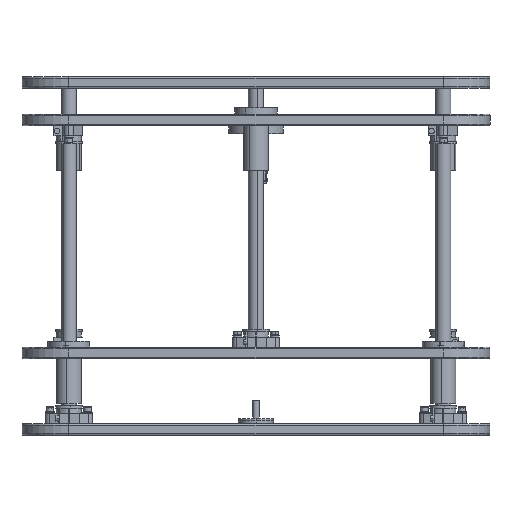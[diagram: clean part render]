
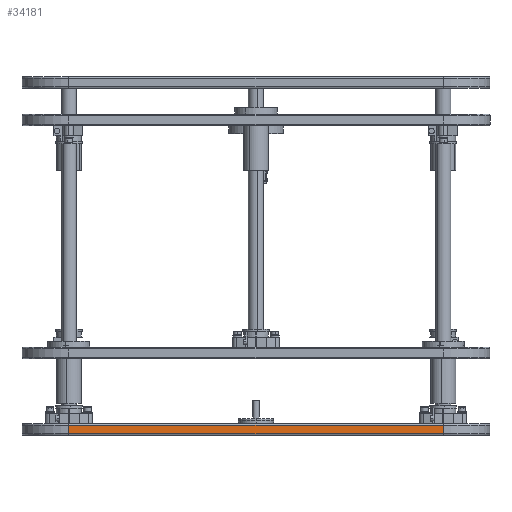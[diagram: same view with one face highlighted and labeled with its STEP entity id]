
A CAD part, front view. The second image highlights one B-rep face of the part: STEP entity #34181.
In plain terms, the highlighted planar face has unit normal (0, -1, 0).
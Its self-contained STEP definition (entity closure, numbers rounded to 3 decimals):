
#2458 = LINE ( 'NONE', #33400, #41344 ) ;
#3836 = ORIENTED_EDGE ( 'NONE', *, *, #9458, .T. ) ;
#5368 = EDGE_CURVE ( 'NONE', #16173, #49179, #9712, .T. ) ;
#6410 = PLANE ( 'NONE',  #7095 ) ;
#7095 = AXIS2_PLACEMENT_3D ( 'NONE', #37469, #45288, #22076 ) ;
#7569 = VECTOR ( 'NONE', #10902, 1000. ) ;
#9458 = EDGE_CURVE ( 'NONE', #41810, #42490, #29248, .T. ) ;
#9712 = LINE ( 'NONE', #47752, #38238 ) ;
#10728 = CARTESIAN_POINT ( 'NONE',  ( -300., -300., 6.5 ) ) ;
#10902 = DIRECTION ( 'NONE',  ( -1., 0., 0. ) ) ;
#12998 = DIRECTION ( 'NONE',  ( 0., 0., -1. ) ) ;
#14093 = DIRECTION ( 'NONE',  ( 1., 0., 0. ) ) ;
#16173 = VERTEX_POINT ( 'NONE', #26284 ) ;
#17956 = LINE ( 'NONE', #10728, #7569 ) ;
#18170 = ORIENTED_EDGE ( 'NONE', *, *, #38959, .T. ) ;
#18193 = FACE_OUTER_BOUND ( 'NONE', #35791, .T. ) ;
#19002 = VECTOR ( 'NONE', #45700, 1000. ) ;
#22076 = DIRECTION ( 'NONE',  ( -1., 0., 0. ) ) ;
#22763 = ORIENTED_EDGE ( 'NONE', *, *, #5368, .T. ) ;
#26284 = CARTESIAN_POINT ( 'NONE',  ( -240., -300., 6.5 ) ) ;
#28457 = CARTESIAN_POINT ( 'NONE',  ( -240., -300., -4.5 ) ) ;
#29248 = LINE ( 'NONE', #37884, #19002 ) ;
#29484 = EDGE_CURVE ( 'NONE', #42490, #16173, #17956, .T. ) ;
#33400 = CARTESIAN_POINT ( 'NONE',  ( 240., -300., -4.5 ) ) ;
#34181 = ADVANCED_FACE ( 'NONE', ( #18193 ), #6410, .F. ) ;
#35791 = EDGE_LOOP ( 'NONE', ( #3836, #43638, #22763, #18170 ) ) ;
#37469 = CARTESIAN_POINT ( 'NONE',  ( -300., -300., 8.5 ) ) ;
#37884 = CARTESIAN_POINT ( 'NONE',  ( 240., -300., 8.5 ) ) ;
#38238 = VECTOR ( 'NONE', #12998, 1000. ) ;
#38959 = EDGE_CURVE ( 'NONE', #49179, #41810, #2458, .T. ) ;
#41344 = VECTOR ( 'NONE', #14093, 1000. ) ;
#41810 = VERTEX_POINT ( 'NONE', #41948 ) ;
#41948 = CARTESIAN_POINT ( 'NONE',  ( 240., -300., -4.5 ) ) ;
#42490 = VERTEX_POINT ( 'NONE', #43763 ) ;
#43638 = ORIENTED_EDGE ( 'NONE', *, *, #29484, .T. ) ;
#43763 = CARTESIAN_POINT ( 'NONE',  ( 240., -300., 6.5 ) ) ;
#45288 = DIRECTION ( 'NONE',  ( 0., 1., 0. ) ) ;
#45700 = DIRECTION ( 'NONE',  ( 0., 0., 1. ) ) ;
#47752 = CARTESIAN_POINT ( 'NONE',  ( -240., -300., 8.5 ) ) ;
#49179 = VERTEX_POINT ( 'NONE', #28457 ) ;
